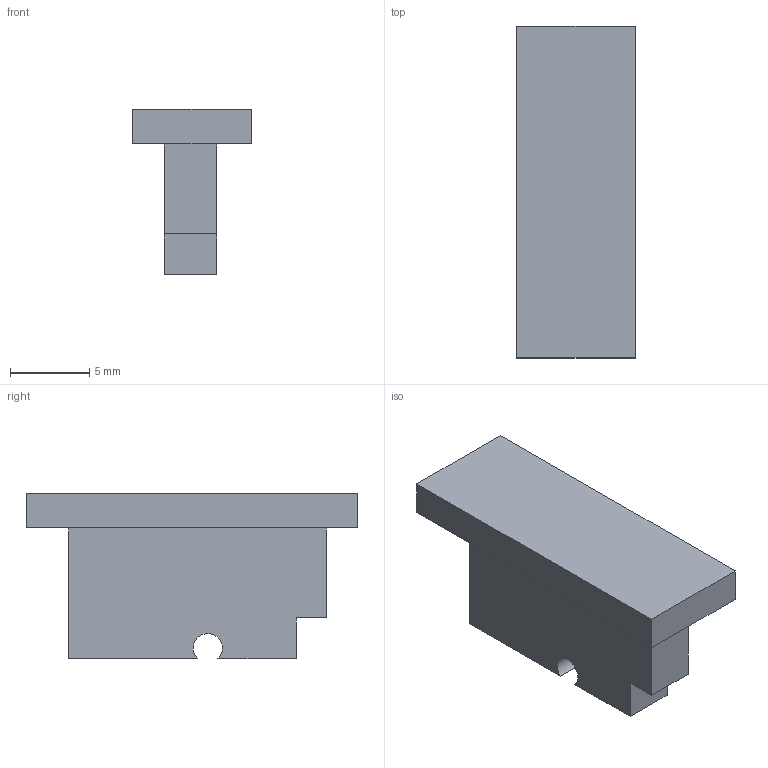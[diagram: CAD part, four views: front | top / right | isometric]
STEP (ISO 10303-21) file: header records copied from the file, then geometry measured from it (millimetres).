
FILE_DESCRIPTION(('Open CASCADE Model'),'2;1');
FILE_NAME('QF04B_J8_REAR_OPEN_CORNER_AND_FORMED_STRAP_TEST_BASE', '2026-09-15T14:35:31',('Author'),('Open CASCADE'), 'Open CASCADE STEP processor 7.9','build123d','Unknown');
FILE_SCHEMA(('AUTOMOTIVE_DESIGN { 1 0 10303 214 1 1 1 1 }'));
Length unit declared in the file: millimetre
Products named in the file (1): QF04B_J8_REAR_OPEN_CORNER_AND_FORMED_STRAP_TEST_BASE
Bounding box: 7.5 x 21 x 10.47 mm (x, y, z)
Volume: 767.3 mm3; surface area: 760.4 mm2
Topology: 1 solids, 1 shells, 16 faces, 39 edges, 26 vertices
Faces by surface type: plane 14, cylinder 2
Entity records: 970 total; most frequent: CARTESIAN_POINT 174, DIRECTION 141, LINE 95, VECTOR 95, ORIENTED_EDGE 78, PCURVE 78, DEFINITIONAL_REPRESENTATION 78, EDGE_CURVE 39
